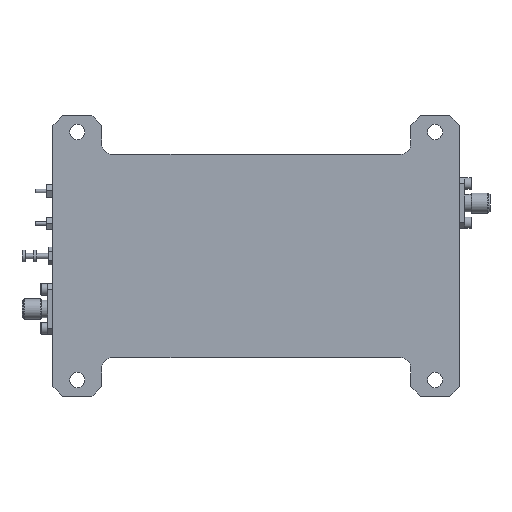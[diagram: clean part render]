
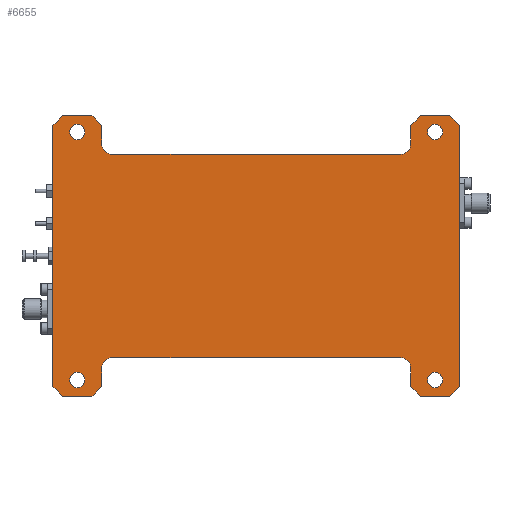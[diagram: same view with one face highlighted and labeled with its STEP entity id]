
A CAD part, top view. The second image highlights one B-rep face of the part: STEP entity #6655.
In plain terms, the highlighted planar face has unit normal (0, 0, 1) as drawn and (0, 0, -1) by its records, which use the part's own axes.
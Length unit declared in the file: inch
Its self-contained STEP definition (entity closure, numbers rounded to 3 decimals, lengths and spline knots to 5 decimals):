
#5753=CARTESIAN_POINT('',(2.106,1.525,0.0));
#5754=VERTEX_POINT('',#5753);
#5755=CARTESIAN_POINT('',(2.2,1.525,0.0));
#5756=DIRECTION('',(0.0,0.0,1.0));
#5757=DIRECTION('',(1.0,0.0,0.0));
#5758=AXIS2_PLACEMENT_3D('',#5755,#5756,#5757);
#5759=CIRCLE('',#5758,0.094);
#5760=EDGE_CURVE('',#5754,#5754,#5759,.T.);
#5781=CARTESIAN_POINT('',(2.106,-1.525,0.0));
#5782=VERTEX_POINT('',#5781);
#5783=CARTESIAN_POINT('',(2.2,-1.525,0.0));
#5784=DIRECTION('',(0.0,0.0,1.0));
#5785=DIRECTION('',(1.0,0.0,0.0));
#5786=AXIS2_PLACEMENT_3D('',#5783,#5784,#5785);
#5787=CIRCLE('',#5786,0.094);
#5788=EDGE_CURVE('',#5782,#5782,#5787,.T.);
#5809=CARTESIAN_POINT('',(-2.294,-1.525,0.0));
#5810=VERTEX_POINT('',#5809);
#5811=CARTESIAN_POINT('',(-2.2,-1.525,0.0));
#5812=DIRECTION('',(0.0,0.0,1.0));
#5813=DIRECTION('',(1.0,0.0,0.0));
#5814=AXIS2_PLACEMENT_3D('',#5811,#5812,#5813);
#5815=CIRCLE('',#5814,0.094);
#5816=EDGE_CURVE('',#5810,#5810,#5815,.T.);
#5837=CARTESIAN_POINT('',(-2.294,1.525,0.0));
#5838=VERTEX_POINT('',#5837);
#5839=CARTESIAN_POINT('',(-2.2,1.525,0.0));
#5840=DIRECTION('',(0.0,0.0,1.0));
#5841=DIRECTION('',(1.0,0.0,0.0));
#5842=AXIS2_PLACEMENT_3D('',#5839,#5840,#5841);
#5843=CIRCLE('',#5842,0.094);
#5844=EDGE_CURVE('',#5838,#5838,#5843,.T.);
#5875=CARTESIAN_POINT('',(-2.5,1.605,0.0));
#5876=VERTEX_POINT('',#5875);
#5883=CARTESIAN_POINT('',(-2.5,-1.605,0.0));
#5884=VERTEX_POINT('',#5883);
#5885=CARTESIAN_POINT('',(-2.5,1.605,0.0));
#5886=DIRECTION('',(0.0,-1.0,0.0));
#5887=VECTOR('',#5886,3.21);
#5888=LINE('',#5885,#5887);
#5889=EDGE_CURVE('',#5876,#5884,#5888,.T.);
#5913=CARTESIAN_POINT('',(-2.38,1.725,0.0));
#5914=VERTEX_POINT('',#5913);
#5921=CARTESIAN_POINT('',(-2.38,1.725,0.0));
#5922=DIRECTION('',(-0.707,-0.707,0.0));
#5923=VECTOR('',#5922,0.16971);
#5924=LINE('',#5921,#5923);
#5925=EDGE_CURVE('',#5914,#5876,#5924,.T.);
#5944=CARTESIAN_POINT('',(-2.02,1.725,0.0));
#5945=VERTEX_POINT('',#5944);
#5952=CARTESIAN_POINT('',(-2.02,1.725,0.0));
#5953=DIRECTION('',(-1.0,0.0,0.0));
#5954=VECTOR('',#5953,0.36);
#5955=LINE('',#5952,#5954);
#5956=EDGE_CURVE('',#5945,#5914,#5955,.T.);
#5975=CARTESIAN_POINT('',(-1.9,1.605,0.0));
#5976=VERTEX_POINT('',#5975);
#5983=CARTESIAN_POINT('',(-1.9,1.605,0.0));
#5984=DIRECTION('',(-0.707,0.707,0.0));
#5985=VECTOR('',#5984,0.16971);
#5986=LINE('',#5983,#5985);
#5987=EDGE_CURVE('',#5976,#5945,#5986,.T.);
#6006=CARTESIAN_POINT('',(-1.9,1.375,0.0));
#6007=VERTEX_POINT('',#6006);
#6014=CARTESIAN_POINT('',(-1.9,1.375,0.0));
#6015=DIRECTION('',(0.0,1.0,0.0));
#6016=VECTOR('',#6015,0.23);
#6017=LINE('',#6014,#6016);
#6018=EDGE_CURVE('',#6007,#5976,#6017,.T.);
#6038=CARTESIAN_POINT('',(-1.775,1.25,0.0));
#6039=VERTEX_POINT('',#6038);
#6046=CARTESIAN_POINT('',(-1.775,1.375,0.0));
#6047=DIRECTION('',(0.0,0.0,-1.0));
#6048=DIRECTION('',(1.0,0.0,0.0));
#6049=AXIS2_PLACEMENT_3D('',#6046,#6047,#6048);
#6050=CIRCLE('',#6049,0.125);
#6051=EDGE_CURVE('',#6039,#6007,#6050,.T.);
#6070=CARTESIAN_POINT('',(1.775,1.25,0.0));
#6071=VERTEX_POINT('',#6070);
#6078=CARTESIAN_POINT('',(1.775,1.25,0.0));
#6079=DIRECTION('',(-1.0,0.0,0.0));
#6080=VECTOR('',#6079,3.55);
#6081=LINE('',#6078,#6080);
#6082=EDGE_CURVE('',#6071,#6039,#6081,.T.);
#6102=CARTESIAN_POINT('',(1.9,1.375,0.0));
#6103=VERTEX_POINT('',#6102);
#6110=CARTESIAN_POINT('',(1.775,1.375,0.0));
#6111=DIRECTION('',(0.0,0.0,-1.0));
#6112=DIRECTION('',(0.0,1.0,0.0));
#6113=AXIS2_PLACEMENT_3D('',#6110,#6111,#6112);
#6114=CIRCLE('',#6113,0.125);
#6115=EDGE_CURVE('',#6103,#6071,#6114,.T.);
#6134=CARTESIAN_POINT('',(1.9,1.605,0.0));
#6135=VERTEX_POINT('',#6134);
#6142=CARTESIAN_POINT('',(1.9,1.605,0.0));
#6143=DIRECTION('',(0.0,-1.0,0.0));
#6144=VECTOR('',#6143,0.23);
#6145=LINE('',#6142,#6144);
#6146=EDGE_CURVE('',#6135,#6103,#6145,.T.);
#6165=CARTESIAN_POINT('',(2.02,1.725,0.0));
#6166=VERTEX_POINT('',#6165);
#6173=CARTESIAN_POINT('',(2.02,1.725,0.0));
#6174=DIRECTION('',(-0.707,-0.707,0.0));
#6175=VECTOR('',#6174,0.16971);
#6176=LINE('',#6173,#6175);
#6177=EDGE_CURVE('',#6166,#6135,#6176,.T.);
#6196=CARTESIAN_POINT('',(2.38,1.725,0.0));
#6197=VERTEX_POINT('',#6196);
#6204=CARTESIAN_POINT('',(2.38,1.725,0.0));
#6205=DIRECTION('',(-1.0,0.0,0.0));
#6206=VECTOR('',#6205,0.36);
#6207=LINE('',#6204,#6206);
#6208=EDGE_CURVE('',#6197,#6166,#6207,.T.);
#6227=CARTESIAN_POINT('',(2.5,1.605,0.0));
#6228=VERTEX_POINT('',#6227);
#6235=CARTESIAN_POINT('',(2.5,1.605,0.0));
#6236=DIRECTION('',(-0.707,0.707,0.0));
#6237=VECTOR('',#6236,0.16971);
#6238=LINE('',#6235,#6237);
#6239=EDGE_CURVE('',#6228,#6197,#6238,.T.);
#6258=CARTESIAN_POINT('',(2.5,-1.605,0.0));
#6259=VERTEX_POINT('',#6258);
#6266=CARTESIAN_POINT('',(2.5,-1.605,0.0));
#6267=DIRECTION('',(0.0,1.0,0.0));
#6268=VECTOR('',#6267,3.21);
#6269=LINE('',#6266,#6268);
#6270=EDGE_CURVE('',#6259,#6228,#6269,.T.);
#6289=CARTESIAN_POINT('',(2.38,-1.725,0.0));
#6290=VERTEX_POINT('',#6289);
#6297=CARTESIAN_POINT('',(2.38,-1.725,0.0));
#6298=DIRECTION('',(0.707,0.707,0.0));
#6299=VECTOR('',#6298,0.16971);
#6300=LINE('',#6297,#6299);
#6301=EDGE_CURVE('',#6290,#6259,#6300,.T.);
#6320=CARTESIAN_POINT('',(2.02,-1.725,0.0));
#6321=VERTEX_POINT('',#6320);
#6328=CARTESIAN_POINT('',(2.02,-1.725,0.0));
#6329=DIRECTION('',(1.0,0.0,0.0));
#6330=VECTOR('',#6329,0.36);
#6331=LINE('',#6328,#6330);
#6332=EDGE_CURVE('',#6321,#6290,#6331,.T.);
#6351=CARTESIAN_POINT('',(1.9,-1.605,0.0));
#6352=VERTEX_POINT('',#6351);
#6359=CARTESIAN_POINT('',(1.9,-1.605,0.0));
#6360=DIRECTION('',(0.707,-0.707,0.0));
#6361=VECTOR('',#6360,0.16971);
#6362=LINE('',#6359,#6361);
#6363=EDGE_CURVE('',#6352,#6321,#6362,.T.);
#6382=CARTESIAN_POINT('',(1.9,-1.375,0.0));
#6383=VERTEX_POINT('',#6382);
#6390=CARTESIAN_POINT('',(1.9,-1.375,0.0));
#6391=DIRECTION('',(0.0,-1.0,0.0));
#6392=VECTOR('',#6391,0.23);
#6393=LINE('',#6390,#6392);
#6394=EDGE_CURVE('',#6383,#6352,#6393,.T.);
#6414=CARTESIAN_POINT('',(1.775,-1.25,0.0));
#6415=VERTEX_POINT('',#6414);
#6422=CARTESIAN_POINT('',(1.775,-1.375,0.0));
#6423=DIRECTION('',(0.0,0.0,-1.0));
#6424=DIRECTION('',(-1.0,0.0,0.0));
#6425=AXIS2_PLACEMENT_3D('',#6422,#6423,#6424);
#6426=CIRCLE('',#6425,0.125);
#6427=EDGE_CURVE('',#6415,#6383,#6426,.T.);
#6446=CARTESIAN_POINT('',(-1.775,-1.25,0.0));
#6447=VERTEX_POINT('',#6446);
#6454=CARTESIAN_POINT('',(-1.775,-1.25,0.0));
#6455=DIRECTION('',(1.0,0.0,0.0));
#6456=VECTOR('',#6455,3.55);
#6457=LINE('',#6454,#6456);
#6458=EDGE_CURVE('',#6447,#6415,#6457,.T.);
#6478=CARTESIAN_POINT('',(-1.9,-1.375,0.0));
#6479=VERTEX_POINT('',#6478);
#6486=CARTESIAN_POINT('',(-1.775,-1.375,0.0));
#6487=DIRECTION('',(0.0,0.0,-1.0));
#6488=DIRECTION('',(0.0,-1.0,0.0));
#6489=AXIS2_PLACEMENT_3D('',#6486,#6487,#6488);
#6490=CIRCLE('',#6489,0.125);
#6491=EDGE_CURVE('',#6479,#6447,#6490,.T.);
#6510=CARTESIAN_POINT('',(-1.9,-1.605,0.0));
#6511=VERTEX_POINT('',#6510);
#6518=CARTESIAN_POINT('',(-1.9,-1.605,0.0));
#6519=DIRECTION('',(0.0,1.0,0.0));
#6520=VECTOR('',#6519,0.23);
#6521=LINE('',#6518,#6520);
#6522=EDGE_CURVE('',#6511,#6479,#6521,.T.);
#6541=CARTESIAN_POINT('',(-2.02,-1.725,0.0));
#6542=VERTEX_POINT('',#6541);
#6549=CARTESIAN_POINT('',(-2.02,-1.725,0.0));
#6550=DIRECTION('',(0.707,0.707,0.0));
#6551=VECTOR('',#6550,0.16971);
#6552=LINE('',#6549,#6551);
#6553=EDGE_CURVE('',#6542,#6511,#6552,.T.);
#6572=CARTESIAN_POINT('',(-2.38,-1.725,0.0));
#6573=VERTEX_POINT('',#6572);
#6580=CARTESIAN_POINT('',(-2.38,-1.725,0.0));
#6581=DIRECTION('',(1.0,0.0,0.0));
#6582=VECTOR('',#6581,0.36);
#6583=LINE('',#6580,#6582);
#6584=EDGE_CURVE('',#6573,#6542,#6583,.T.);
#6602=CARTESIAN_POINT('',(-2.5,-1.605,0.0));
#6603=DIRECTION('',(0.707,-0.707,0.0));
#6604=VECTOR('',#6603,0.16971);
#6605=LINE('',#6602,#6604);
#6606=EDGE_CURVE('',#5884,#6573,#6605,.T.);
#6612=CARTESIAN_POINT('',(0.,0.,0.0));
#6613=DIRECTION('',(0.0,0.0,1.0));
#6614=DIRECTION('',(1.0,0.0,0.0));
#6615=AXIS2_PLACEMENT_3D('',#6612,#6613,#6614);
#6616=PLANE('',#6615);
#6617=ORIENTED_EDGE('',*,*,#5889,.F.);
#6618=ORIENTED_EDGE('',*,*,#5925,.F.);
#6619=ORIENTED_EDGE('',*,*,#5956,.F.);
#6620=ORIENTED_EDGE('',*,*,#5987,.F.);
#6621=ORIENTED_EDGE('',*,*,#6018,.F.);
#6622=ORIENTED_EDGE('',*,*,#6051,.F.);
#6623=ORIENTED_EDGE('',*,*,#6082,.F.);
#6624=ORIENTED_EDGE('',*,*,#6115,.F.);
#6625=ORIENTED_EDGE('',*,*,#6146,.F.);
#6626=ORIENTED_EDGE('',*,*,#6177,.F.);
#6627=ORIENTED_EDGE('',*,*,#6208,.F.);
#6628=ORIENTED_EDGE('',*,*,#6239,.F.);
#6629=ORIENTED_EDGE('',*,*,#6270,.F.);
#6630=ORIENTED_EDGE('',*,*,#6301,.F.);
#6631=ORIENTED_EDGE('',*,*,#6332,.F.);
#6632=ORIENTED_EDGE('',*,*,#6363,.F.);
#6633=ORIENTED_EDGE('',*,*,#6394,.F.);
#6634=ORIENTED_EDGE('',*,*,#6427,.F.);
#6635=ORIENTED_EDGE('',*,*,#6458,.F.);
#6636=ORIENTED_EDGE('',*,*,#6491,.F.);
#6637=ORIENTED_EDGE('',*,*,#6522,.F.);
#6638=ORIENTED_EDGE('',*,*,#6553,.F.);
#6639=ORIENTED_EDGE('',*,*,#6584,.F.);
#6640=ORIENTED_EDGE('',*,*,#6606,.F.);
#6641=EDGE_LOOP('',(#6617,#6618,#6619,#6620,#6621,#6622,#6623,#6624,#6625,#6626,#6627,#6628,#6629,#6630,#6631,#6632,#6633,#6634,#6635,#6636,#6637,#6638,#6639,#6640));
#6642=FACE_OUTER_BOUND('',#6641,.T.);
#6643=ORIENTED_EDGE('',*,*,#5760,.T.);
#6644=EDGE_LOOP('',(#6643));
#6645=FACE_BOUND('',#6644,.T.);
#6646=ORIENTED_EDGE('',*,*,#5788,.T.);
#6647=EDGE_LOOP('',(#6646));
#6648=FACE_BOUND('',#6647,.T.);
#6649=ORIENTED_EDGE('',*,*,#5816,.T.);
#6650=EDGE_LOOP('',(#6649));
#6651=FACE_BOUND('',#6650,.T.);
#6652=ORIENTED_EDGE('',*,*,#5844,.T.);
#6653=EDGE_LOOP('',(#6652));
#6654=FACE_BOUND('',#6653,.T.);
#6655=ADVANCED_FACE('',(#6642,#6645,#6648,#6651,#6654),#6616,.F.);
